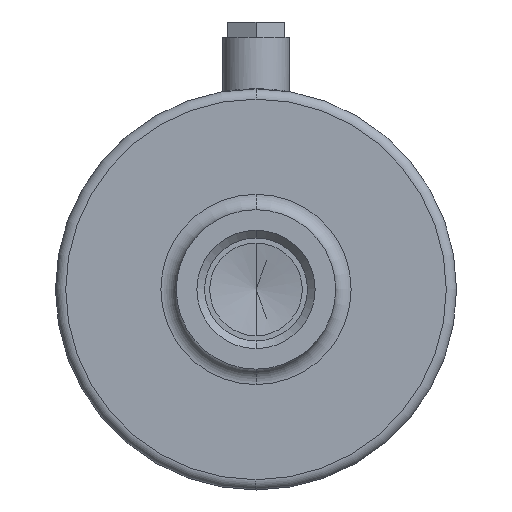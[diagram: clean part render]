
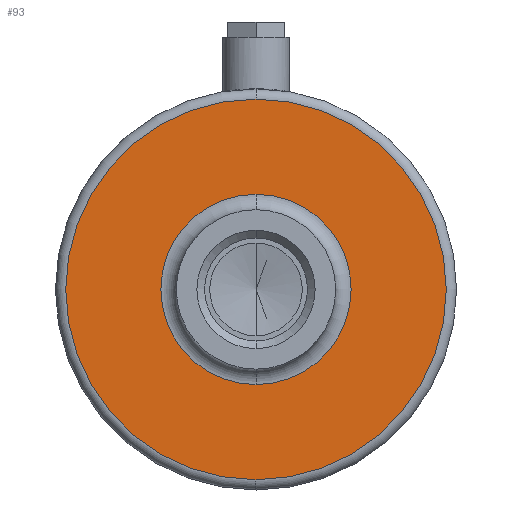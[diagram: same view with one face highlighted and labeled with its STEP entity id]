
A CAD part, front view. The second image highlights one B-rep face of the part: STEP entity #93.
In plain terms, the highlighted planar face has unit normal (0, -1, 0).
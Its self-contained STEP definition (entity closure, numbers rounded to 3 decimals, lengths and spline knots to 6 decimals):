
#93=ADVANCED_FACE('483:685',(#194,#195),#196,.T.);
#194=FACE_OUTER_BOUND('',#308,.T.);
#195=FACE_BOUND('',#309,.T.);
#196=PLANE('',#310);
#308=EDGE_LOOP('',(#635,#636));
#309=EDGE_LOOP('',(#637,#638));
#310=AXIS2_PLACEMENT_3D('',#639,#640,#641);
#635=ORIENTED_EDGE('',*,*,#759,.T.);
#636=ORIENTED_EDGE('',*,*,#784,.T.);
#637=ORIENTED_EDGE('',*,*,#789,.T.);
#638=ORIENTED_EDGE('',*,*,#752,.T.);
#639=CARTESIAN_POINT('',(-0.039,0.00266,0.0));
#640=DIRECTION('',(0.0,-1.0,0.0));
#641=DIRECTION('',(0.0,0.0,-1.0));
#752=EDGE_CURVE('483:754',#902,#900,#903,.T.);
#759=EDGE_CURVE('483:742',#910,#912,#914,.T.);
#784=EDGE_CURVE('483:742',#912,#910,#951,.T.);
#789=EDGE_CURVE('483:754',#900,#902,#956,.T.);
#900=VERTEX_POINT('NONE',#1163);
#902=VERTEX_POINT('',#1165);
#903=CIRCLE('',#1166,0.0185);
#910=VERTEX_POINT('NONE',#1173);
#912=VERTEX_POINT('',#1175);
#914=CIRCLE('',#1177,0.037);
#951=CIRCLE('',#1281,0.037);
#956=CIRCLE('',#1286,0.0185);
#1163=CARTESIAN_POINT('',(0.0,0.00266,-0.0185));
#1165=CARTESIAN_POINT('',(0.,0.00266,0.0185));
#1166=AXIS2_PLACEMENT_3D('',#1443,#1444,#1445);
#1173=CARTESIAN_POINT('',(0.0,0.00266,-0.037));
#1175=CARTESIAN_POINT('',(0.,0.00266,0.037));
#1177=AXIS2_PLACEMENT_3D('',#1464,#1465,#1466);
#1281=AXIS2_PLACEMENT_3D('',#1513,#1514,#1515);
#1286=AXIS2_PLACEMENT_3D('',#1528,#1529,#1530);
#1443=CARTESIAN_POINT('',(0.0,0.00266,0.0));
#1444=DIRECTION('',(0.0,1.0,0.0));
#1445=DIRECTION('',(0.0,0.0,-1.0));
#1464=CARTESIAN_POINT('',(0.0,0.00266,0.0));
#1465=DIRECTION('',(0.0,-1.0,0.0));
#1466=DIRECTION('',(0.0,0.0,-1.0));
#1513=CARTESIAN_POINT('',(0.0,0.00266,0.0));
#1514=DIRECTION('',(0.0,-1.0,0.0));
#1515=DIRECTION('',(0.0,0.0,-1.0));
#1528=CARTESIAN_POINT('',(0.0,0.00266,0.0));
#1529=DIRECTION('',(0.0,1.0,0.0));
#1530=DIRECTION('',(0.0,0.0,-1.0));
